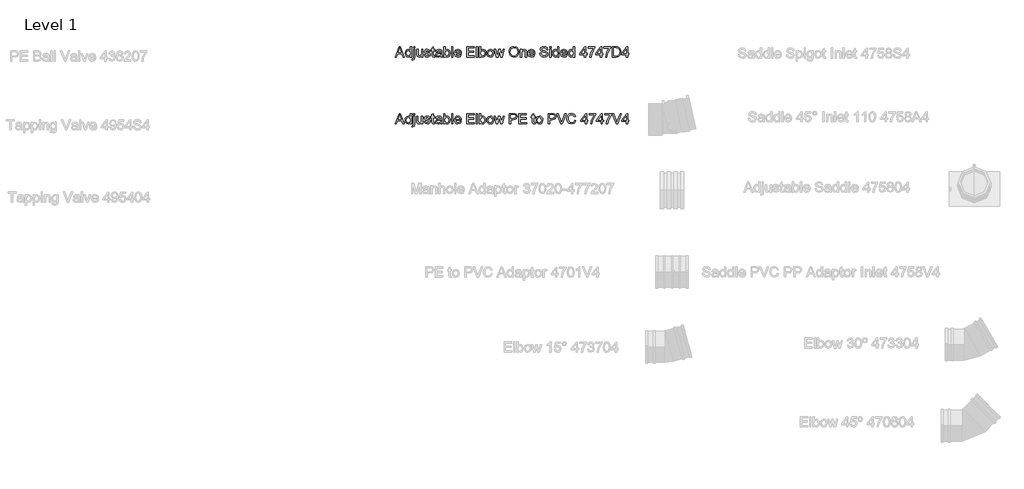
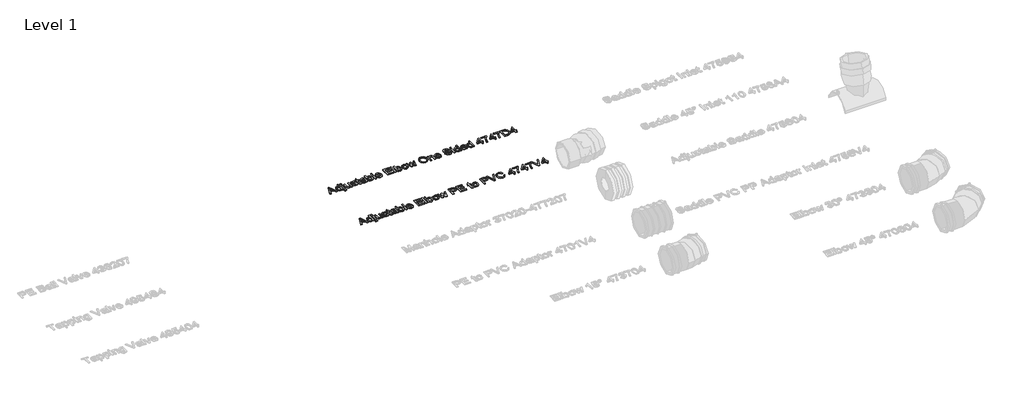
# One storey, part 36 of 38: 2 proxies.
"""IFC4 building model written with IfcOpenShell, lengths in millimetres."""

from ifc_helpers import new_model, si_unit, origin, origin_with_axes, place, context, project, spatial, polyline, outline, extrude, element, save

model = new_model("IFC4")

# Units and contexts
model_context = context("Model", 3, world=origin())
ifc_project = project(units=[si_unit("LENGTHUNIT", "METRE", prefix="MILLI")], contexts=[model_context])

# Site, building, storey
site = spatial("IfcSite", under=ifc_project)
building = spatial("IfcBuilding", under=site)
storey = spatial("IfcBuildingStorey", under=building, Name="Level 1", Elevation=0.0)

# Proxies
placement = place(None, origin())
element("IfcBuildingElementProxy", 1, Name="100 mm Arial", ObjectType="100 mm Arial", at=placement, inside=storey, context=model_context, shape_type="SweptSolid", body=[
    extrude(outline(polyline([(23808.7954728, 4775.8601926), (23832.3772036, 4834.9371156), (23838.6656651, 4834.9371156), (23862.2473959, 4775.8601926), (23854.4445112, 4775.8601926), (23847.6800882, 4794.321731), (23823.3483574, 4794.321731), (23816.5983574, 4775.8601926), (23808.7954728, 4775.8601926)]), holes=[polyline([(23826.0598959, 4801.7063464), (23844.9829728, 4801.7063464), (23839.6608574, 4816.2303849), (23835.5214343, 4827.5525003), (23831.8435497, 4817.4996156), (23826.0598959, 4801.7063464)])]), origin_with_axes(), (0.0, 0.0, 1.0), 5.0),
    extrude(outline(polyline([(23895.9829728, 4775.8601926), (23895.9829728, 4782.8265387), (23891.0971555, 4776.9094714), (23884.3435497, 4774.9371156), (23875.1993189, 4777.7928849), (23868.7377805, 4785.7616349), (23866.4445112, 4797.509231), (23868.557492, 4809.2640387), (23874.8892228, 4817.3553849), (23884.3147036, 4820.1678849), (23891.1223959, 4818.1558656), (23895.9829728, 4812.9275003), (23895.9829728, 4834.9371156), (23903.3675882, 4834.9371156), (23903.3675882, 4775.8601926), (23895.9829728, 4775.8601926)]), holes=[polyline([(23873.8291266, 4797.5380772), (23877.1608574, 4786.1077887), (23885.0214343, 4782.321731), (23892.7882612, 4785.9347118), (23895.9829728, 4796.9755772), (23892.7305689, 4808.9611541), (23884.7185497, 4812.7832695), (23876.9445112, 4809.1125964), (23873.8291266, 4797.5380772)])]), origin_with_axes(), (0.0, 0.0, 1.0), 5.0),
    extrude(outline(polyline([(23914.4445112, 4827.5525003), (23914.4445112, 4834.9371156), (23921.8291266, 4834.9371156), (23921.8291266, 4827.5525003), (23914.4445112, 4827.5525003)])), origin_with_axes(), (0.0, 0.0, 1.0), 5.0),
    extrude(outline(polyline([(23905.1416266, 4759.2159618), (23906.6993189, 4766.2400003), (23910.088742, 4765.7063464), (23913.369992, 4767.1702887), (23914.4445112, 4774.4900003), (23914.4445112, 4819.2448079), (23921.8291266, 4819.2448079), (23921.8291266, 4773.5380772), (23919.7377805, 4762.4034618), (23910.9108574, 4758.321731), (23905.1416266, 4759.2159618)])), origin_with_axes(), (0.0, 0.0, 1.0), 5.0),
    extrude(outline(polyline([(23960.5983574, 4775.8601926), (23960.5983574, 4783.3169233), (23954.8147036, 4777.0320676), (23947.2714343, 4774.9371156), (23940.3267228, 4776.4082695), (23935.5382612, 4780.1005772), (23933.338742, 4785.5380772), (23932.9060497, 4792.4034618), (23932.9060497, 4819.2448079), (23940.2906651, 4819.2448079), (23940.2906651, 4795.8794233), (23940.7377805, 4788.3505772), (23943.6584536, 4783.9299041), (23949.1608574, 4782.321731), (23955.3267228, 4783.9659618), (23959.401242, 4788.4443272), (23960.5983574, 4796.6726926), (23960.5983574, 4819.2448079), (23967.9829728, 4819.2448079), (23967.9829728, 4775.8601926), (23960.5983574, 4775.8601926)])), origin_with_axes(), (0.0, 0.0, 1.0), 5.0),
    extrude(outline(polyline([(23975.3675882, 4788.7832695), (23982.7522036, 4789.7063464), (23986.1704728, 4784.2255772), (23994.0022036, 4782.321731), (24001.5310497, 4784.0669233), (24003.9829728, 4788.1630772), (24001.5166266, 4791.4803849), (23993.9156651, 4793.5861541), (23982.7954728, 4797.1991349), (23977.9421074, 4801.4178849), (23976.2906651, 4807.3746156), (23977.6175882, 4812.8770195), (23981.2377805, 4817.0813464), (23985.932492, 4819.2664426), (23992.2858574, 4820.1678849), (24001.2714343, 4818.7183656), (24006.9829728, 4814.7952887), (24009.5214343, 4808.1678849), (24002.1368189, 4807.2448079), (23999.3603766, 4811.3193272), (23992.8627805, 4812.7832695), (23985.7954728, 4811.384231), (23983.6752805, 4808.1246156), (23984.5550882, 4805.9755772), (23987.3098959, 4804.3457695), (23993.6704728, 4802.7736541), (24004.5094151, 4799.2976926), (24009.5430689, 4795.3601926), (24011.3675882, 4788.9419233), (24009.2257612, 4781.8746156), (24003.0454728, 4776.7472118), (23993.901242, 4774.9371156), (23981.0214343, 4778.4275003), (23975.3675882, 4788.7832695)])), origin_with_axes(), (0.0, 0.0, 1.0), 5.0),
    extrude(outline(polyline([(24035.3675882, 4782.0188464), (24036.2906651, 4775.6438464), (24030.7666266, 4774.9371156), (24024.5791266, 4776.1630772), (24021.4925882, 4779.3794233), (24020.5983574, 4787.759231), (24020.5983574, 4811.8601926), (24015.0598959, 4811.8601926), (24015.0598959, 4819.2448079), (24020.5983574, 4819.2448079), (24020.5983574, 4829.7880772), (24027.9829728, 4834.1294233), (24027.9829728, 4819.2448079), (24035.3675882, 4819.2448079), (24035.3675882, 4811.8601926), (24027.9829728, 4811.8601926), (24027.9829728, 4787.9755772), (24028.3723959, 4784.1678849), (24029.6344151, 4782.8193272), (24032.151242, 4782.321731), (24035.3675882, 4782.0188464)])), origin_with_axes(), (0.0, 0.0, 1.0), 5.0),
    extrude(outline(polyline([(24070.4445112, 4781.3986541), (24063.2834536, 4776.3938464), (24055.3723959, 4774.9371156), (24044.6488382, 4778.4419233), (24040.9060497, 4787.3986541), (24042.3195112, 4793.2400003), (24046.0334536, 4797.4803849), (24051.2041266, 4799.9034618), (24057.5935497, 4801.0140387), (24070.401242, 4803.5525003), (24070.4445112, 4805.196731), (24068.4108574, 4810.6486541), (24060.2473959, 4812.7832695), (24052.776242, 4811.3625964), (24049.213742, 4806.321731), (24041.8291266, 4807.2448079), (24045.0238382, 4814.4563464), (24051.4565305, 4818.6823079), (24061.1993189, 4820.1678849), (24070.1488382, 4818.8553849), (24075.2041266, 4815.5597118), (24077.4685497, 4810.5476926), (24077.8291266, 4804.0861541), (24077.8291266, 4794.8986541), (24078.2041266, 4782.0693272), (24079.6752805, 4775.8601926), (24072.2906651, 4775.8601926), (24070.4445112, 4781.3986541)]), holes=[polyline([(24070.4445112, 4796.1678849), (24058.5310497, 4793.9034618), (24052.1776843, 4792.7063464), (24049.3002805, 4790.759231), (24048.2906651, 4787.9178849), (24050.4901843, 4783.9226926), (24056.9445112, 4782.321731), (24064.4156651, 4784.0885579), (24069.2329728, 4788.3650003), (24070.401242, 4794.0765387), (24070.4445112, 4796.1678849)])]), origin_with_axes(), (0.0, 0.0, 1.0), 5.0),
    extrude(outline(polyline([(24095.3675882, 4775.8601926), (24087.9829728, 4775.8601926), (24087.9829728, 4834.9371156), (24095.3675882, 4834.9371156), (24095.3675882, 4813.0284618), (24100.5382612, 4818.3830291), (24106.963742, 4820.1678849), (24114.3627805, 4818.5597118), (24120.1031651, 4814.0380772), (24123.6296074, 4807.0068272), (24124.9060497, 4798.2015387), (24123.5845353, 4788.3433656), (24119.619992, 4781.009231), (24113.8020834, 4776.4551445), (24106.9204728, 4774.9371156), (24100.354367, 4776.8950483), (24095.3675882, 4782.7688464), (24095.3675882, 4775.8601926)]), holes=[polyline([(24095.3675882, 4797.8553849), (24097.3868189, 4787.5284618), (24106.2858574, 4782.321731), (24114.1897036, 4786.1582695), (24117.5214343, 4797.5957695), (24114.3267228, 4809.0765387), (24106.6031651, 4812.7832695), (24098.6993189, 4808.946731), (24095.3675882, 4797.8553849)])]), origin_with_axes(), (0.0, 0.0, 1.0), 5.0),
    extrude(outline(polyline([(24133.213742, 4775.8601926), (24133.213742, 4834.9371156), (24140.5983574, 4834.9371156), (24140.5983574, 4775.8601926), (24133.213742, 4775.8601926)])), origin_with_axes(), (0.0, 0.0, 1.0), 5.0),
    extrude(outline(polyline([(24182.0502805, 4788.7832695), (24189.2906651, 4787.8601926), (24182.5190305, 4778.3265387), (24169.9060497, 4774.9371156), (24161.2413862, 4776.3992551), (24154.5743189, 4780.7856733), (24150.323117, 4787.8115147), (24148.9060497, 4797.1919233), (24150.3375401, 4806.8878368), (24154.6320112, 4814.1390387), (24161.2089343, 4818.6606733), (24169.4877805, 4820.1678849), (24177.5088141, 4818.6642791), (24183.9180689, 4814.1534618), (24188.120593, 4806.9166829), (24189.5214343, 4797.2351926), (24189.4781651, 4795.2448079), (24156.2906651, 4795.2448079), (24160.5382612, 4785.6534618), (24170.0502805, 4782.321731), (24177.2906651, 4783.8650003), (24182.0502805, 4788.7832695)]), holes=[polyline([(24156.2906651, 4802.6294233), (24182.1368189, 4802.6294233), (24179.1800882, 4809.321731), (24169.4589343, 4812.7832695), (24160.3651843, 4810.0212503), (24156.2906651, 4802.6294233)])]), origin_with_axes(), (0.0, 0.0, 1.0), 5.0),
    extrude(outline(polyline([(24220.9060497, 4775.8601926), (24220.9060497, 4834.9371156), (24263.3675882, 4834.9371156), (24263.3675882, 4827.5525003), (24228.2906651, 4827.5525003), (24228.2906651, 4810.0140387), (24261.5214343, 4810.0140387), (24261.5214343, 4802.6294233), (24228.2906651, 4802.6294233), (24228.2906651, 4783.2448079), (24264.2906651, 4783.2448079), (24264.2906651, 4775.8601926), (24220.9060497, 4775.8601926)])), origin_with_axes(), (0.0, 0.0, 1.0), 5.0),
    extrude(outline(polyline([(24274.4445112, 4775.8601926), (24274.4445112, 4834.9371156), (24281.8291266, 4834.9371156), (24281.8291266, 4775.8601926), (24274.4445112, 4775.8601926)])), origin_with_axes(), (0.0, 0.0, 1.0), 5.0),
    extrude(outline(polyline([(24300.2906651, 4775.8601926), (24292.9060497, 4775.8601926), (24292.9060497, 4834.9371156), (24300.2906651, 4834.9371156), (24300.2906651, 4813.0284618), (24305.4613382, 4818.3830291), (24311.8868189, 4820.1678849), (24319.2858574, 4818.5597118), (24325.026242, 4814.0380772), (24328.5526843, 4807.0068272), (24329.8291266, 4798.2015387), (24328.5076122, 4788.3433656), (24324.5430689, 4781.009231), (24318.7251603, 4776.4551445), (24311.8435497, 4774.9371156), (24305.2774439, 4776.8950483), (24300.2906651, 4782.7688464), (24300.2906651, 4775.8601926)]), holes=[polyline([(24300.2906651, 4797.8553849), (24302.3098959, 4787.5284618), (24311.2089343, 4782.321731), (24319.1127805, 4786.1582695), (24322.4445112, 4797.5957695), (24319.2497997, 4809.0765387), (24311.526242, 4812.7832695), (24303.6223959, 4808.946731), (24300.2906651, 4797.8553849)])]), origin_with_axes(), (0.0, 0.0, 1.0), 5.0),
    extrude(outline(polyline([(24336.2906651, 4797.5525003), (24337.8880209, 4808.0128368), (24342.6800882, 4815.3650003), (24355.6897036, 4820.1678849), (24363.4475161, 4818.7057454), (24369.6440305, 4814.3193272), (24373.7059295, 4807.3547839), (24375.0598959, 4798.1582695), (24372.6656651, 4785.0188464), (24365.6921074, 4777.5837503), (24355.6897036, 4774.9371156), (24347.8381411, 4776.3938464), (24341.6488382, 4780.7640387), (24337.6302084, 4787.8746156), (24336.2906651, 4797.5525003)]), holes=[polyline([(24343.6752805, 4797.5669233), (24347.0935497, 4786.1222118), (24355.6897036, 4782.321731), (24364.2570112, 4786.1438464), (24367.6752805, 4797.7976926), (24364.2353766, 4808.9827887), (24355.6897036, 4812.7832695), (24347.0935497, 4808.9972118), (24343.6752805, 4797.5669233)])]), origin_with_axes(), (0.0, 0.0, 1.0), 5.0),
    extrude(outline(polyline([(24390.5647036, 4775.8601926), (24377.3675882, 4819.2448079), (24385.0406651, 4819.2448079), (24392.526242, 4793.9323079), (24394.7618189, 4784.8890387), (24396.5935497, 4793.6005772), (24402.5502805, 4819.2448079), (24411.3483574, 4819.2448079), (24417.276242, 4793.6726926), (24418.9060497, 4785.7832695), (24421.2425882, 4794.1053849), (24428.7425882, 4819.2448079), (24436.4445112, 4819.2448079), (24423.1464343, 4775.8601926), (24414.2185497, 4775.8601926), (24408.5502805, 4801.3025003), (24406.9060497, 4809.2351926), (24399.5935497, 4775.8601926), (24390.5647036, 4775.8601926)])), origin_with_axes(), (0.0, 0.0, 1.0), 5.0),
    extrude(outline(polyline([(24462.7522036, 4804.6198079), (24464.7209536, 4817.6835099), (24470.6272036, 4827.5669233), (24479.6452324, 4833.7868753), (24490.9493189, 4835.8601926), (24505.6464343, 4831.9659618), (24515.6272036, 4821.1053849), (24519.0598959, 4805.2976926), (24515.4469151, 4789.2736541), (24505.2065305, 4778.571731), (24490.9060497, 4774.9371156), (24476.0502805, 4778.9539426), (24466.1272036, 4789.915481), (24462.7522036, 4804.6198079)]), holes=[polyline([(24470.1368189, 4804.5476926), (24471.6133814, 4795.306106), (24476.0430689, 4788.2640387), (24482.7011218, 4783.8073079), (24490.8627805, 4782.321731), (24499.1434295, 4783.821731), (24505.8122997, 4788.321731), (24510.2095353, 4795.5801445), (24511.6752805, 4805.3553849), (24509.1656651, 4817.5428849), (24501.8315305, 4825.6125964), (24490.9925882, 4828.4755772), (24476.2954728, 4822.9587503), (24471.6764824, 4815.5975724), (24470.1368189, 4804.5476926)])]), origin_with_axes(), (0.0, 0.0, 1.0), 5.0),
    extrude(outline(polyline([(24528.2906651, 4775.8601926), (24528.2906651, 4819.2448079), (24535.6752805, 4819.2448079), (24535.6752805, 4813.1871156), (24541.3219151, 4818.4226926), (24549.0310497, 4820.1678849), (24556.0046074, 4818.7616349), (24560.7642228, 4815.0693272), (24562.9781651, 4809.6390387), (24563.3675882, 4802.4996156), (24563.3675882, 4775.8601926), (24555.9829728, 4775.8601926), (24555.9829728, 4801.5044233), (24555.1320112, 4808.0380772), (24552.1247997, 4811.4924041), (24547.0550882, 4812.7832695), (24539.0430689, 4809.884231), (24535.6752805, 4798.8794233), (24535.6752805, 4775.8601926), (24528.2906651, 4775.8601926)])), origin_with_axes(), (0.0, 0.0, 1.0), 5.0),
    extrude(outline(polyline([(24603.8964343, 4788.7832695), (24611.1368189, 4787.8601926), (24604.3651843, 4778.3265387), (24591.7522036, 4774.9371156), (24583.0875401, 4776.3992551), (24576.4204728, 4780.7856733), (24572.1692709, 4787.8115147), (24570.7522036, 4797.1919233), (24572.1836939, 4806.8878368), (24576.4781651, 4814.1390387), (24583.0550882, 4818.6606733), (24591.3339343, 4820.1678849), (24599.354968, 4818.6642791), (24605.7642228, 4814.1534618), (24609.9667468, 4806.9166829), (24611.3675882, 4797.2351926), (24611.3243189, 4795.2448079), (24578.1368189, 4795.2448079), (24582.3844151, 4785.6534618), (24591.8964343, 4782.321731), (24599.1368189, 4783.8650003), (24603.8964343, 4788.7832695)]), holes=[polyline([(24578.1368189, 4802.6294233), (24603.9829728, 4802.6294233), (24601.026242, 4809.321731), (24591.3050882, 4812.7832695), (24582.2113382, 4810.0212503), (24578.1368189, 4802.6294233)])]), origin_with_axes(), (0.0, 0.0, 1.0), 5.0),
    extrude(outline(polyline([(24639.9829728, 4796.1678849), (24647.3675882, 4796.1678849), (24649.7473959, 4788.7760579), (24655.5598959, 4784.102981), (24664.4156651, 4782.321731), (24672.1320112, 4783.6702887), (24677.1151843, 4787.3770195), (24678.7522036, 4792.3313464), (24677.526242, 4796.9395195), (24672.5070112, 4800.2928849), (24661.7546074, 4803.1125964), (24650.1800882, 4806.7544233), (24643.8988382, 4812.2496156), (24641.8291266, 4819.5909618), (24644.3892228, 4827.9491349), (24651.8675882, 4833.8481733), (24662.8147036, 4835.8601926), (24674.4973959, 4833.7544233), (24682.2858574, 4827.5669233), (24685.213742, 4818.321731), (24677.8291266, 4818.321731), (24673.6464343, 4825.9082695), (24663.1031651, 4828.4755772), (24652.5310497, 4825.9371156), (24649.213742, 4819.8073079), (24651.5647036, 4814.6871156), (24663.6223959, 4810.5621156), (24676.6897036, 4806.8553849), (24683.8363382, 4800.8698079), (24686.1368189, 4792.5188464), (24683.4901843, 4783.6847118), (24675.8747997, 4777.2375964), (24664.7041266, 4774.9371156), (24651.5142228, 4777.4178849), (24643.1704728, 4784.8890387), (24639.9829728, 4796.1678849)])), origin_with_axes(), (0.0, 0.0, 1.0), 5.0),
    extrude(outline(polyline([(24696.2906651, 4827.5525003), (24696.2906651, 4834.9371156), (24703.6752805, 4834.9371156), (24703.6752805, 4827.5525003), (24696.2906651, 4827.5525003)])), origin_with_axes(), (0.0, 0.0, 1.0), 5.0),
    extrude(outline(polyline([(24696.2906651, 4775.8601926), (24696.2906651, 4819.2448079), (24703.6752805, 4819.2448079), (24703.6752805, 4775.8601926), (24696.2906651, 4775.8601926)])), origin_with_axes(), (0.0, 0.0, 1.0), 5.0),
    extrude(outline(polyline([(24741.5214343, 4775.8601926), (24741.5214343, 4782.8265387), (24736.635617, 4776.9094714), (24729.8820112, 4774.9371156), (24720.7377805, 4777.7928849), (24714.276242, 4785.7616349), (24711.9829728, 4797.509231), (24714.0959536, 4809.2640387), (24720.4276843, 4817.3553849), (24729.8531651, 4820.1678849), (24736.6608574, 4818.1558656), (24741.5214343, 4812.9275003), (24741.5214343, 4834.9371156), (24748.9060497, 4834.9371156), (24748.9060497, 4775.8601926), (24741.5214343, 4775.8601926)]), holes=[polyline([(24719.3675882, 4797.5380772), (24722.6993189, 4786.1077887), (24730.5598959, 4782.321731), (24738.3267228, 4785.9347118), (24741.5214343, 4796.9755772), (24738.2690305, 4808.9611541), (24730.2570112, 4812.7832695), (24722.4829728, 4809.1125964), (24719.3675882, 4797.5380772)])]), origin_with_axes(), (0.0, 0.0, 1.0), 5.0),
    extrude(outline(polyline([(24790.3579728, 4788.7832695), (24797.5983574, 4787.8601926), (24790.8267228, 4778.3265387), (24778.213742, 4774.9371156), (24769.5490786, 4776.3992551), (24762.8820112, 4780.7856733), (24758.6308093, 4787.8115147), (24757.213742, 4797.1919233), (24758.6452324, 4806.8878368), (24762.9397036, 4814.1390387), (24769.5166266, 4818.6606733), (24777.7954728, 4820.1678849), (24785.8165064, 4818.6642791), (24792.2257612, 4814.1534618), (24796.4282853, 4806.9166829), (24797.8291266, 4797.2351926), (24797.7858574, 4795.2448079), (24764.5983574, 4795.2448079), (24768.8459536, 4785.6534618), (24778.3579728, 4782.321731), (24785.5983574, 4783.8650003), (24790.3579728, 4788.7832695)]), holes=[polyline([(24764.5983574, 4802.6294233), (24790.4445112, 4802.6294233), (24787.4877805, 4809.321731), (24777.7666266, 4812.7832695), (24768.6728766, 4810.0212503), (24764.5983574, 4802.6294233)])]), origin_with_axes(), (0.0, 0.0, 1.0), 5.0),
    extrude(outline(polyline([(24831.9829728, 4775.8601926), (24831.9829728, 4782.8265387), (24827.0971555, 4776.9094714), (24820.3435497, 4774.9371156), (24811.1993189, 4777.7928849), (24804.7377805, 4785.7616349), (24802.4445112, 4797.509231), (24804.557492, 4809.2640387), (24810.8892228, 4817.3553849), (24820.3147036, 4820.1678849), (24827.1223959, 4818.1558656), (24831.9829728, 4812.9275003), (24831.9829728, 4834.9371156), (24839.3675882, 4834.9371156), (24839.3675882, 4775.8601926), (24831.9829728, 4775.8601926)]), holes=[polyline([(24809.8291266, 4797.5380772), (24813.1608574, 4786.1077887), (24821.0214343, 4782.321731), (24828.7882612, 4785.9347118), (24831.9829728, 4796.9755772), (24828.7305689, 4808.9611541), (24820.7185497, 4812.7832695), (24812.9445112, 4809.1125964), (24809.8291266, 4797.5380772)])]), origin_with_axes(), (0.0, 0.0, 1.0), 5.0),
    extrude(outline(polyline([(24895.6752805, 4775.8601926), (24895.6752805, 4789.7063464), (24868.9060497, 4789.7063464), (24868.9060497, 4797.0909618), (24897.5214343, 4834.0140387), (24903.0598959, 4834.0140387), (24903.0598959, 4797.0909618), (24910.4445112, 4797.0909618), (24910.4445112, 4789.7063464), (24903.0598959, 4789.7063464), (24903.0598959, 4775.8601926), (24895.6752805, 4775.8601926)]), holes=[polyline([(24895.6752805, 4797.0909618), (24895.6752805, 4819.9082695), (24877.9925882, 4797.0909618), (24895.6752805, 4797.0909618)])]), origin_with_axes(), (0.0, 0.0, 1.0), 5.0),
    extrude(outline(polyline([(24916.9060497, 4826.6294233), (24916.9060497, 4834.0140387), (24955.6752805, 4834.0140387), (24955.6752805, 4828.0428849), (24944.6776843, 4812.1558656), (24936.2618189, 4791.9130772), (24933.5214343, 4775.8601926), (24926.1368189, 4775.8601926), (24929.0719151, 4792.5188464), (24937.1272036, 4811.3481733), (24948.2906651, 4826.6294233), (24916.9060497, 4826.6294233)])), origin_with_axes(), (0.0, 0.0, 1.0), 5.0),
    extrude(outline(polyline([(24986.1368189, 4775.8601926), (24986.1368189, 4789.7063464), (24959.3675882, 4789.7063464), (24959.3675882, 4797.0909618), (24987.9829728, 4834.0140387), (24993.5214343, 4834.0140387), (24993.5214343, 4797.0909618), (25000.9060497, 4797.0909618), (25000.9060497, 4789.7063464), (24993.5214343, 4789.7063464), (24993.5214343, 4775.8601926), (24986.1368189, 4775.8601926)]), holes=[polyline([(24986.1368189, 4797.0909618), (24986.1368189, 4819.9082695), (24968.4541266, 4797.0909618), (24986.1368189, 4797.0909618)])]), origin_with_axes(), (0.0, 0.0, 1.0), 5.0),
    extrude(outline(polyline([(25007.3675882, 4826.6294233), (25007.3675882, 4834.0140387), (25046.1368189, 4834.0140387), (25046.1368189, 4828.0428849), (25035.1392228, 4812.1558656), (25026.7233574, 4791.9130772), (25023.9829728, 4775.8601926), (25016.5983574, 4775.8601926), (25019.5334536, 4792.5188464), (25027.588742, 4811.3481733), (25038.7522036, 4826.6294233), (25007.3675882, 4826.6294233)])), origin_with_axes(), (0.0, 0.0, 1.0), 5.0),
    extrude(outline(polyline([(25055.3675882, 4775.8601926), (25055.3675882, 4834.9371156), (25075.7473959, 4834.9371156), (25086.2906651, 4834.0861541), (25094.9733574, 4829.8601926), (25101.9685497, 4819.7640387), (25104.2906651, 4805.7159618), (25102.7185497, 4793.7952887), (25098.6800882, 4785.1919233), (25093.2858574, 4779.8337503), (25086.2257612, 4776.8698079), (25076.7281651, 4775.8601926), (25055.3675882, 4775.8601926)]), holes=[polyline([(25062.7522036, 4783.2448079), (25075.8195112, 4783.2448079), (25085.3243189, 4784.3121156), (25090.8050882, 4787.3265387), (25095.2978766, 4794.6606733), (25096.9060497, 4805.8313464), (25093.7546074, 4819.821731), (25086.088742, 4826.3698079), (25075.6175882, 4827.5525003), (25062.7522036, 4827.5525003), (25062.7522036, 4783.2448079)])]), origin_with_axes(), (0.0, 0.0, 1.0), 5.0),
    extrude(outline(polyline([(25135.6752805, 4775.8601926), (25135.6752805, 4789.7063464), (25108.9060497, 4789.7063464), (25108.9060497, 4797.0909618), (25137.5214343, 4834.0140387), (25143.0598959, 4834.0140387), (25143.0598959, 4797.0909618), (25150.4445112, 4797.0909618), (25150.4445112, 4789.7063464), (25143.0598959, 4789.7063464), (25143.0598959, 4775.8601926), (25135.6752805, 4775.8601926)]), holes=[polyline([(25135.6752805, 4797.0909618), (25135.6752805, 4819.9082695), (25117.9925882, 4797.0909618), (25135.6752805, 4797.0909618)])]), origin_with_axes(), (0.0, 0.0, 1.0), 5.0),
])
element("IfcBuildingElementProxy", 2, Name="100 mm Arial", ObjectType="100 mm Arial", at=placement, inside=storey, context=model_context, shape_type="SweptSolid", body=[
    extrude(outline(polyline([(23808.3339343, 4392.3077873), (23831.9156651, 4451.3847104), (23838.2041266, 4451.3847104), (23861.7858574, 4392.3077873), (23853.9829728, 4392.3077873), (23847.2185497, 4410.7693257), (23822.8868189, 4410.7693257), (23816.1368189, 4392.3077873), (23808.3339343, 4392.3077873)]), holes=[polyline([(23825.5983574, 4418.1539411), (23844.5214343, 4418.1539411), (23839.1993189, 4432.6779796), (23835.0598959, 4444.000095), (23831.3820112, 4433.9472104), (23825.5983574, 4418.1539411)])]), origin_with_axes(), (0.0, 0.0, 1.0), 5.0),
    extrude(outline(polyline([(23895.5214343, 4392.3077873), (23895.5214343, 4399.2741334), (23890.635617, 4393.3570661), (23883.8820112, 4391.3847104), (23874.7377805, 4394.2404796), (23868.276242, 4402.2092296), (23865.9829728, 4413.9568257), (23868.0959536, 4425.7116334), (23874.4276843, 4433.8029796), (23883.8531651, 4436.6154796), (23890.6608574, 4434.6034604), (23895.5214343, 4429.375095), (23895.5214343, 4451.3847104), (23902.9060497, 4451.3847104), (23902.9060497, 4392.3077873), (23895.5214343, 4392.3077873)]), holes=[polyline([(23873.3675882, 4413.9856719), (23876.6993189, 4402.5553834), (23884.5598959, 4398.7693257), (23892.3267228, 4402.3823065), (23895.5214343, 4413.4231719), (23892.2690305, 4425.4087488), (23884.2570112, 4429.2308642), (23876.4829728, 4425.5601911), (23873.3675882, 4413.9856719)])]), origin_with_axes(), (0.0, 0.0, 1.0), 5.0),
    extrude(outline(polyline([(23913.9829728, 4444.000095), (23913.9829728, 4451.3847104), (23921.3675882, 4451.3847104), (23921.3675882, 4444.000095), (23913.9829728, 4444.000095)])), origin_with_axes(), (0.0, 0.0, 1.0), 5.0),
    extrude(outline(polyline([(23904.6800882, 4375.6635565), (23906.2377805, 4382.687595), (23909.6272036, 4382.1539411), (23912.9084536, 4383.6178834), (23913.9829728, 4390.937595), (23913.9829728, 4435.6924027), (23921.3675882, 4435.6924027), (23921.3675882, 4389.9856719), (23919.276242, 4378.8510565), (23910.4493189, 4374.7693257), (23904.6800882, 4375.6635565)])), origin_with_axes(), (0.0, 0.0, 1.0), 5.0),
    extrude(outline(polyline([(23960.1368189, 4392.3077873), (23960.1368189, 4399.7645181), (23954.3531651, 4393.4796623), (23946.8098959, 4391.3847104), (23939.8651843, 4392.8558642), (23935.0767228, 4396.5481719), (23932.8772036, 4401.9856719), (23932.4445112, 4408.8510565), (23932.4445112, 4435.6924027), (23939.8291266, 4435.6924027), (23939.8291266, 4412.3270181), (23940.276242, 4404.7981719), (23943.1969151, 4400.3774988), (23948.6993189, 4398.7693257), (23954.8651843, 4400.4135565), (23958.9397036, 4404.8919219), (23960.1368189, 4413.1202873), (23960.1368189, 4435.6924027), (23967.5214343, 4435.6924027), (23967.5214343, 4392.3077873), (23960.1368189, 4392.3077873)])), origin_with_axes(), (0.0, 0.0, 1.0), 5.0),
    extrude(outline(polyline([(23974.9060497, 4405.2308642), (23982.2906651, 4406.1539411), (23985.7089343, 4400.6731719), (23993.5406651, 4398.7693257), (24001.0695112, 4400.5145181), (24003.5214343, 4404.6106719), (24001.0550882, 4407.9279796), (23993.4541266, 4410.0337488), (23982.3339343, 4413.6467296), (23977.4805689, 4417.8654796), (23975.8291266, 4423.8222104), (23977.1560497, 4429.3246142), (23980.776242, 4433.5289411), (23985.4709536, 4435.7140373), (23991.8243189, 4436.6154796), (24000.8098959, 4435.1659604), (24006.5214343, 4431.2428834), (24009.0598959, 4424.6154796), (24001.6752805, 4423.6924027), (23998.8988382, 4427.7669219), (23992.401242, 4429.2308642), (23985.3339343, 4427.8318257), (23983.213742, 4424.5722104), (23984.0935497, 4422.4231719), (23986.8483574, 4420.7933642), (23993.2089343, 4419.2212488), (24004.0478766, 4415.7452873), (24009.0815305, 4411.8077873), (24010.9060497, 4405.3895181), (24008.7642228, 4398.3222104), (24002.5839343, 4393.1948065), (23993.4397036, 4391.3847104), (23980.5598959, 4394.875095), (23974.9060497, 4405.2308642)])), origin_with_axes(), (0.0, 0.0, 1.0), 5.0),
    extrude(outline(polyline([(24034.9060497, 4398.4664411), (24035.8291266, 4392.0914411), (24030.3050882, 4391.3847104), (24024.1175882, 4392.6106719), (24021.0310497, 4395.8270181), (24020.1368189, 4404.2068257), (24020.1368189, 4428.3077873), (24014.5983574, 4428.3077873), (24014.5983574, 4435.6924027), (24020.1368189, 4435.6924027), (24020.1368189, 4446.2356719), (24027.5214343, 4450.5770181), (24027.5214343, 4435.6924027), (24034.9060497, 4435.6924027), (24034.9060497, 4428.3077873), (24027.5214343, 4428.3077873), (24027.5214343, 4404.4231719), (24027.9108574, 4400.6154796), (24029.1728766, 4399.2669219), (24031.6897036, 4398.7693257), (24034.9060497, 4398.4664411)])), origin_with_axes(), (0.0, 0.0, 1.0), 5.0),
    extrude(outline(polyline([(24069.9829728, 4397.8462488), (24062.8219151, 4392.8414411), (24054.9108574, 4391.3847104), (24044.1872997, 4394.8895181), (24040.4445112, 4403.8462488), (24041.8579728, 4409.687595), (24045.5719151, 4413.9279796), (24050.7425882, 4416.3510565), (24057.1320112, 4417.4616334), (24069.9397036, 4420.000095), (24069.9829728, 4421.6443257), (24067.9493189, 4427.0962488), (24059.7858574, 4429.2308642), (24052.3147036, 4427.8101911), (24048.7522036, 4422.7693257), (24041.3675882, 4423.6924027), (24044.5622997, 4430.9039411), (24050.994992, 4435.1299027), (24060.7377805, 4436.6154796), (24069.6872997, 4435.3029796), (24074.7425882, 4432.0073065), (24077.0070112, 4426.9952873), (24077.3675882, 4420.5337488), (24077.3675882, 4411.3462488), (24077.7425882, 4398.5169219), (24079.213742, 4392.3077873), (24071.8291266, 4392.3077873), (24069.9829728, 4397.8462488)]), holes=[polyline([(24069.9829728, 4412.6154796), (24058.0695112, 4410.3510565), (24051.7161459, 4409.1539411), (24048.838742, 4407.2068257), (24047.8291266, 4404.3654796), (24050.0286459, 4400.3702873), (24056.4829728, 4398.7693257), (24063.9541266, 4400.5361527), (24068.7714343, 4404.812595), (24069.9397036, 4410.5241334), (24069.9829728, 4412.6154796)])]), origin_with_axes(), (0.0, 0.0, 1.0), 5.0),
    extrude(outline(polyline([(24094.9060497, 4392.3077873), (24087.5214343, 4392.3077873), (24087.5214343, 4451.3847104), (24094.9060497, 4451.3847104), (24094.9060497, 4429.4760565), (24100.0767228, 4434.8306238), (24106.5022036, 4436.6154796), (24113.901242, 4435.0073065), (24119.6416266, 4430.4856719), (24123.1680689, 4423.4544219), (24124.4445112, 4414.6491334), (24123.1229968, 4404.7909604), (24119.1584536, 4397.4568257), (24113.3405449, 4392.9027392), (24106.4589343, 4391.3847104), (24099.8928286, 4393.3426431), (24094.9060497, 4399.2164411), (24094.9060497, 4392.3077873)]), holes=[polyline([(24094.9060497, 4414.3029796), (24096.9252805, 4403.9760565), (24105.8243189, 4398.7693257), (24113.7281651, 4402.6058642), (24117.0598959, 4414.0433642), (24113.8651843, 4425.5241334), (24106.1416266, 4429.2308642), (24098.2377805, 4425.3943257), (24094.9060497, 4414.3029796)])]), origin_with_axes(), (0.0, 0.0, 1.0), 5.0),
    extrude(outline(polyline([(24132.7522036, 4392.3077873), (24132.7522036, 4451.3847104), (24140.1368189, 4451.3847104), (24140.1368189, 4392.3077873), (24132.7522036, 4392.3077873)])), origin_with_axes(), (0.0, 0.0, 1.0), 5.0),
    extrude(outline(polyline([(24181.588742, 4405.2308642), (24188.8291266, 4404.3077873), (24182.057492, 4394.7741334), (24169.4445112, 4391.3847104), (24160.7798478, 4392.8468498), (24154.1127805, 4397.2332681), (24149.8615786, 4404.2591094), (24148.4445112, 4413.6395181), (24149.8760016, 4423.3354315), (24154.1704728, 4430.5866334), (24160.7473959, 4435.1082681), (24169.026242, 4436.6154796), (24177.0472757, 4435.1118738), (24183.4565305, 4430.6010565), (24187.6590545, 4423.3642777), (24189.0598959, 4413.6827873), (24189.0166266, 4411.6924027), (24155.8291266, 4411.6924027), (24160.0767228, 4402.1010565), (24169.588742, 4398.7693257), (24176.8291266, 4400.312595), (24181.588742, 4405.2308642)]), holes=[polyline([(24155.8291266, 4419.0770181), (24181.6752805, 4419.0770181), (24178.7185497, 4425.7693257), (24168.9973959, 4429.2308642), (24159.9036459, 4426.468845), (24155.8291266, 4419.0770181)])]), origin_with_axes(), (0.0, 0.0, 1.0), 5.0),
    extrude(outline(polyline([(24220.4445112, 4392.3077873), (24220.4445112, 4451.3847104), (24262.9060497, 4451.3847104), (24262.9060497, 4444.000095), (24227.8291266, 4444.000095), (24227.8291266, 4426.4616334), (24261.0598959, 4426.4616334), (24261.0598959, 4419.0770181), (24227.8291266, 4419.0770181), (24227.8291266, 4399.6924027), (24263.8291266, 4399.6924027), (24263.8291266, 4392.3077873), (24220.4445112, 4392.3077873)])), origin_with_axes(), (0.0, 0.0, 1.0), 5.0),
    extrude(outline(polyline([(24273.9829728, 4392.3077873), (24273.9829728, 4451.3847104), (24281.3675882, 4451.3847104), (24281.3675882, 4392.3077873), (24273.9829728, 4392.3077873)])), origin_with_axes(), (0.0, 0.0, 1.0), 5.0),
    extrude(outline(polyline([(24299.8291266, 4392.3077873), (24292.4445112, 4392.3077873), (24292.4445112, 4451.3847104), (24299.8291266, 4451.3847104), (24299.8291266, 4429.4760565), (24304.9997997, 4434.8306238), (24311.4252805, 4436.6154796), (24318.8243189, 4435.0073065), (24324.5647036, 4430.4856719), (24328.0911459, 4423.4544219), (24329.3675882, 4414.6491334), (24328.0460737, 4404.7909604), (24324.0815305, 4397.4568257), (24318.2636218, 4392.9027392), (24311.3820112, 4391.3847104), (24304.8159055, 4393.3426431), (24299.8291266, 4399.2164411), (24299.8291266, 4392.3077873)]), holes=[polyline([(24299.8291266, 4414.3029796), (24301.8483574, 4403.9760565), (24310.7473959, 4398.7693257), (24318.651242, 4402.6058642), (24321.9829728, 4414.0433642), (24318.7882612, 4425.5241334), (24311.0647036, 4429.2308642), (24303.1608574, 4425.3943257), (24299.8291266, 4414.3029796)])]), origin_with_axes(), (0.0, 0.0, 1.0), 5.0),
    extrude(outline(polyline([(24335.8291266, 4414.000095), (24337.4264824, 4424.4604315), (24342.2185497, 4431.812595), (24355.2281651, 4436.6154796), (24362.9859776, 4435.1533402), (24369.182492, 4430.7669219), (24373.2443911, 4423.8023786), (24374.5983574, 4414.6058642), (24372.2041266, 4401.4664411), (24365.2305689, 4394.031345), (24355.2281651, 4391.3847104), (24347.3766026, 4392.8414411), (24341.1872997, 4397.2116334), (24337.1686699, 4404.3222104), (24335.8291266, 4414.000095)]), holes=[polyline([(24343.213742, 4414.0145181), (24346.6320112, 4402.5698065), (24355.2281651, 4398.7693257), (24363.7954728, 4402.5914411), (24367.213742, 4414.2452873), (24363.7738382, 4425.4303834), (24355.2281651, 4429.2308642), (24346.6320112, 4425.4448065), (24343.213742, 4414.0145181)])]), origin_with_axes(), (0.0, 0.0, 1.0), 5.0),
    extrude(outline(polyline([(24390.1031651, 4392.3077873), (24376.9060497, 4435.6924027), (24384.5791266, 4435.6924027), (24392.0647036, 4410.3799027), (24394.3002805, 4401.3366334), (24396.1320112, 4410.0481719), (24402.088742, 4435.6924027), (24410.8868189, 4435.6924027), (24416.8147036, 4410.1202873), (24418.4445112, 4402.2308642), (24420.7810497, 4410.5529796), (24428.2810497, 4435.6924027), (24435.9829728, 4435.6924027), (24422.6848959, 4392.3077873), (24413.7570112, 4392.3077873), (24408.088742, 4417.750095), (24406.4445112, 4425.6827873), (24399.1320112, 4392.3077873), (24390.1031651, 4392.3077873)])), origin_with_axes(), (0.0, 0.0, 1.0), 5.0),
    extrude(outline(polyline([(24465.0598959, 4392.3077873), (24465.0598959, 4451.3847104), (24486.9541266, 4451.3847104), (24495.7810497, 4450.8222104), (24502.9565305, 4448.0601911), (24507.6079728, 4442.3486527), (24509.3675882, 4434.2933642), (24504.6151843, 4421.5289411), (24497.9499199, 4417.6130757), (24487.4589343, 4416.3077873), (24472.4445112, 4416.3077873), (24472.4445112, 4392.3077873), (24465.0598959, 4392.3077873)]), holes=[polyline([(24472.4445112, 4423.6924027), (24487.8916266, 4423.6924027), (24498.7666266, 4426.4039411), (24501.9829728, 4434.0337488), (24500.0863382, 4440.1491334), (24495.1031651, 4443.4952873), (24487.7185497, 4444.000095), (24472.4445112, 4444.000095), (24472.4445112, 4423.6924027)])]), origin_with_axes(), (0.0, 0.0, 1.0), 5.0),
    extrude(outline(polyline([(24519.5214343, 4392.3077873), (24519.5214343, 4451.3847104), (24561.9829728, 4451.3847104), (24561.9829728, 4444.000095), (24526.9060497, 4444.000095), (24526.9060497, 4426.4616334), (24560.1368189, 4426.4616334), (24560.1368189, 4419.0770181), (24526.9060497, 4419.0770181), (24526.9060497, 4399.6924027), (24562.9060497, 4399.6924027), (24562.9060497, 4392.3077873), (24519.5214343, 4392.3077873)])), origin_with_axes(), (0.0, 0.0, 1.0), 5.0),
    extrude(outline(polyline([(24611.8291266, 4398.4664411), (24612.7522036, 4392.0914411), (24607.2281651, 4391.3847104), (24601.0406651, 4392.6106719), (24597.9541266, 4395.8270181), (24597.0598959, 4404.2068257), (24597.0598959, 4428.3077873), (24591.5214343, 4428.3077873), (24591.5214343, 4435.6924027), (24597.0598959, 4435.6924027), (24597.0598959, 4446.2356719), (24604.4445112, 4450.5770181), (24604.4445112, 4435.6924027), (24611.8291266, 4435.6924027), (24611.8291266, 4428.3077873), (24604.4445112, 4428.3077873), (24604.4445112, 4404.4231719), (24604.8339343, 4400.6154796), (24606.0959536, 4399.2669219), (24608.6127805, 4398.7693257), (24611.8291266, 4398.4664411)])), origin_with_axes(), (0.0, 0.0, 1.0), 5.0),
    extrude(outline(polyline([(24617.3675882, 4414.000095), (24618.9649439, 4424.4604315), (24623.7570112, 4431.812595), (24636.7666266, 4436.6154796), (24644.5244391, 4435.1533402), (24650.7209536, 4430.7669219), (24654.7828526, 4423.8023786), (24656.1368189, 4414.6058642), (24653.7425882, 4401.4664411), (24646.7690305, 4394.031345), (24636.7666266, 4391.3847104), (24628.9150641, 4392.8414411), (24622.7257612, 4397.2116334), (24618.7071314, 4404.3222104), (24617.3675882, 4414.000095)]), holes=[polyline([(24624.7522036, 4414.0145181), (24628.1704728, 4402.5698065), (24636.7666266, 4398.7693257), (24645.3339343, 4402.5914411), (24648.7522036, 4414.2452873), (24645.3122997, 4425.4303834), (24636.7666266, 4429.2308642), (24628.1704728, 4425.4448065), (24624.7522036, 4414.0145181)])]), origin_with_axes(), (0.0, 0.0, 1.0), 5.0),
    extrude(outline(polyline([(24688.4445112, 4392.3077873), (24688.4445112, 4451.3847104), (24710.338742, 4451.3847104), (24719.1656651, 4450.8222104), (24726.3411459, 4448.0601911), (24730.9925882, 4442.3486527), (24732.7522036, 4434.2933642), (24727.9997997, 4421.5289411), (24721.3345353, 4417.6130757), (24710.8435497, 4416.3077873), (24695.8291266, 4416.3077873), (24695.8291266, 4392.3077873), (24688.4445112, 4392.3077873)]), holes=[polyline([(24695.8291266, 4423.6924027), (24711.276242, 4423.6924027), (24722.151242, 4426.4039411), (24725.3675882, 4434.0337488), (24723.4709536, 4440.1491334), (24718.4877805, 4443.4952873), (24711.1031651, 4444.000095), (24695.8291266, 4444.000095), (24695.8291266, 4423.6924027)])]), origin_with_axes(), (0.0, 0.0, 1.0), 5.0),
    extrude(outline(polyline([(24760.3579728, 4392.3077873), (24736.8483574, 4451.3847104), (24744.7522036, 4451.3847104), (24760.4877805, 4408.8222104), (24763.6752805, 4399.2308642), (24766.8195112, 4408.8222104), (24782.5983574, 4451.3847104), (24790.5022036, 4451.3847104), (24767.9877805, 4392.3077873), (24760.3579728, 4392.3077873)])), origin_with_axes(), (0.0, 0.0, 1.0), 5.0),
    extrude(outline(polyline([(24838.9060497, 4413.3077873), (24846.2906651, 4411.4039411), (24837.5358574, 4396.5121142), (24822.0743189, 4391.3847104), (24806.7065305, 4395.2645181), (24797.6921074, 4406.500095), (24794.5983574, 4422.2933642), (24798.0959536, 4438.3462488), (24808.0406651, 4448.7524988), (24822.2329728, 4452.3077873), (24837.0238382, 4447.7068257), (24845.3675882, 4434.7549027), (24837.9829728, 4432.9952873), (24831.9252805, 4442.0746142), (24821.9445112, 4444.9231719), (24810.3916266, 4441.7645181), (24803.8651843, 4433.2837488), (24801.9829728, 4422.3077873), (24804.2113382, 4409.5866334), (24811.1488382, 4401.4592296), (24821.338742, 4398.7693257), (24832.6392228, 4402.4327873), (24838.9060497, 4413.3077873)])), origin_with_axes(), (0.0, 0.0, 1.0), 5.0),
    extrude(outline(polyline([(24900.7522036, 4392.3077873), (24900.7522036, 4406.1539411), (24873.9829728, 4406.1539411), (24873.9829728, 4413.5385565), (24902.5983574, 4450.4616334), (24908.1368189, 4450.4616334), (24908.1368189, 4413.5385565), (24915.5214343, 4413.5385565), (24915.5214343, 4406.1539411), (24908.1368189, 4406.1539411), (24908.1368189, 4392.3077873), (24900.7522036, 4392.3077873)]), holes=[polyline([(24900.7522036, 4413.5385565), (24900.7522036, 4436.3558642), (24883.0695112, 4413.5385565), (24900.7522036, 4413.5385565)])]), origin_with_axes(), (0.0, 0.0, 1.0), 5.0),
    extrude(outline(polyline([(24921.9829728, 4443.0770181), (24921.9829728, 4450.4616334), (24960.7522036, 4450.4616334), (24960.7522036, 4444.4904796), (24949.7546074, 4428.6034604), (24941.338742, 4408.3606719), (24938.5983574, 4392.3077873), (24931.213742, 4392.3077873), (24934.1488382, 4408.9664411), (24942.2041266, 4427.7957681), (24953.3675882, 4443.0770181), (24921.9829728, 4443.0770181)])), origin_with_axes(), (0.0, 0.0, 1.0), 5.0),
    extrude(outline(polyline([(24991.213742, 4392.3077873), (24991.213742, 4406.1539411), (24964.4445112, 4406.1539411), (24964.4445112, 4413.5385565), (24993.0598959, 4450.4616334), (24998.5983574, 4450.4616334), (24998.5983574, 4413.5385565), (25005.9829728, 4413.5385565), (25005.9829728, 4406.1539411), (24998.5983574, 4406.1539411), (24998.5983574, 4392.3077873), (24991.213742, 4392.3077873)]), holes=[polyline([(24991.213742, 4413.5385565), (24991.213742, 4436.3558642), (24973.5310497, 4413.5385565), (24991.213742, 4413.5385565)])]), origin_with_axes(), (0.0, 0.0, 1.0), 5.0),
    extrude(outline(polyline([(25012.4445112, 4443.0770181), (25012.4445112, 4450.4616334), (25051.213742, 4450.4616334), (25051.213742, 4444.4904796), (25040.2161459, 4428.6034604), (25031.8002805, 4408.3606719), (25029.0598959, 4392.3077873), (25021.6752805, 4392.3077873), (25024.6103766, 4408.9664411), (25032.6656651, 4427.7957681), (25043.8291266, 4443.0770181), (25012.4445112, 4443.0770181)])), origin_with_axes(), (0.0, 0.0, 1.0), 5.0),
    extrude(outline(polyline([(25077.8964343, 4392.3077873), (25054.3868189, 4451.3847104), (25062.2906651, 4451.3847104), (25078.026242, 4408.8222104), (25081.213742, 4399.2308642), (25084.3579728, 4408.8222104), (25100.1368189, 4451.3847104), (25108.0406651, 4451.3847104), (25085.526242, 4392.3077873), (25077.8964343, 4392.3077873)])), origin_with_axes(), (0.0, 0.0, 1.0), 5.0),
    extrude(outline(polyline([(25136.1368189, 4392.3077873), (25136.1368189, 4406.1539411), (25109.3675882, 4406.1539411), (25109.3675882, 4413.5385565), (25137.9829728, 4450.4616334), (25143.5214343, 4450.4616334), (25143.5214343, 4413.5385565), (25150.9060497, 4413.5385565), (25150.9060497, 4406.1539411), (25143.5214343, 4406.1539411), (25143.5214343, 4392.3077873), (25136.1368189, 4392.3077873)]), holes=[polyline([(25136.1368189, 4413.5385565), (25136.1368189, 4436.3558642), (25118.4541266, 4413.5385565), (25136.1368189, 4413.5385565)])]), origin_with_axes(), (0.0, 0.0, 1.0), 5.0),
])

save(model, "model.ifc")
